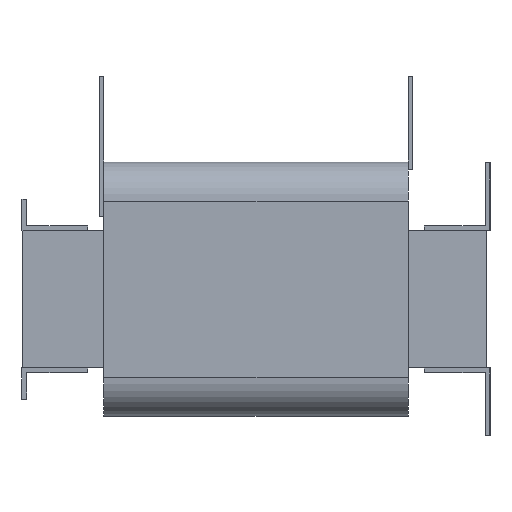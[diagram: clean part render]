
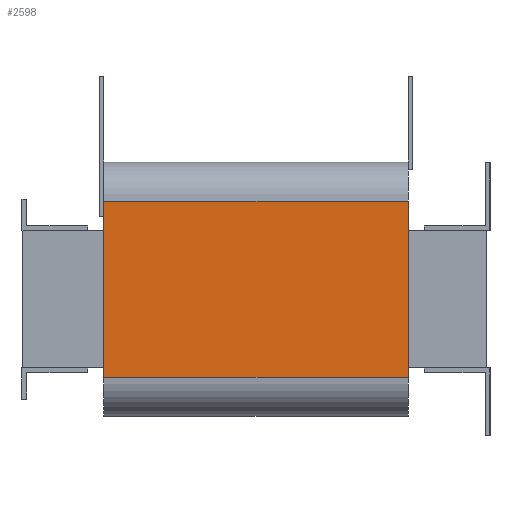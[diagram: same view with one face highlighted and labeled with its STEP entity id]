
A CAD part, left-side view. The second image highlights one B-rep face of the part: STEP entity #2598.
In plain terms, the highlighted planar face has unit normal (-1, 0, 0).
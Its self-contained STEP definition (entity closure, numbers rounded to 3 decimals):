
#102=PLANE('',#2804);
#231=FACE_OUTER_BOUND('',#381,.T.);
#381=EDGE_LOOP('',(#2166,#2167,#2168,#2169));
#630=LINE('',#4035,#948);
#649=LINE('',#4085,#967);
#650=LINE('',#4088,#968);
#651=LINE('',#4089,#969);
#948=VECTOR('',#3290,10.);
#967=VECTOR('',#3335,10.);
#968=VECTOR('',#3338,10.);
#969=VECTOR('',#3339,10.);
#1291=VERTEX_POINT('',#4032);
#1292=VERTEX_POINT('',#4034);
#1310=VERTEX_POINT('',#4083);
#1311=VERTEX_POINT('',#4087);
#1601=EDGE_CURVE('',#1291,#1292,#630,.T.);
#1627=EDGE_CURVE('',#1310,#1291,#649,.T.);
#1628=EDGE_CURVE('',#1310,#1311,#650,.T.);
#1629=EDGE_CURVE('',#1292,#1311,#651,.T.);
#2166=ORIENTED_EDGE('',*,*,#1627,.F.);
#2167=ORIENTED_EDGE('',*,*,#1628,.T.);
#2168=ORIENTED_EDGE('',*,*,#1629,.F.);
#2169=ORIENTED_EDGE('',*,*,#1601,.F.);
#2598=ADVANCED_FACE('',(#231),#102,.T.);
#2804=AXIS2_PLACEMENT_3D('',#4086,#3336,#3337);
#3290=DIRECTION('',(0.,0.,1.));
#3335=DIRECTION('',(0.,1.,0.));
#3336=DIRECTION('center_axis',(-1.,0.,0.));
#3337=DIRECTION('ref_axis',(0.,0.,1.));
#3338=DIRECTION('',(0.,0.,1.));
#3339=DIRECTION('',(0.,-1.,0.));
#4032=CARTESIAN_POINT('',(-173.5,247.5,-50.));
#4034=CARTESIAN_POINT('',(-173.5,247.5,63.));
#4035=CARTESIAN_POINT('',(-173.5,247.5,-75.));
#4083=CARTESIAN_POINT('',(-173.5,52.5,-50.));
#4085=CARTESIAN_POINT('',(-173.5,52.5,-50.));
#4086=CARTESIAN_POINT('Origin',(-173.5,52.5,-75.));
#4087=CARTESIAN_POINT('',(-173.5,52.5,63.));
#4088=CARTESIAN_POINT('',(-173.5,52.5,-75.));
#4089=CARTESIAN_POINT('',(-173.5,52.5,63.));
